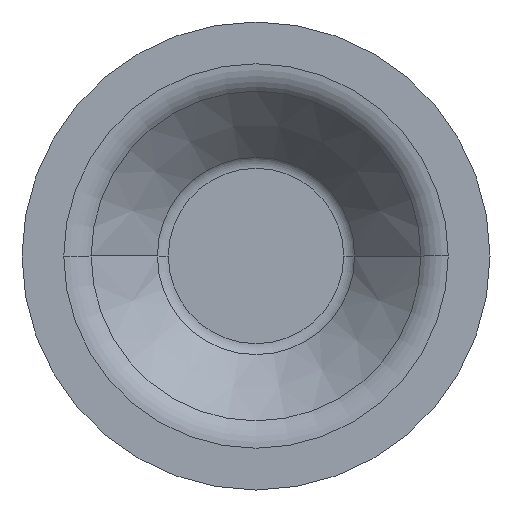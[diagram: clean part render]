
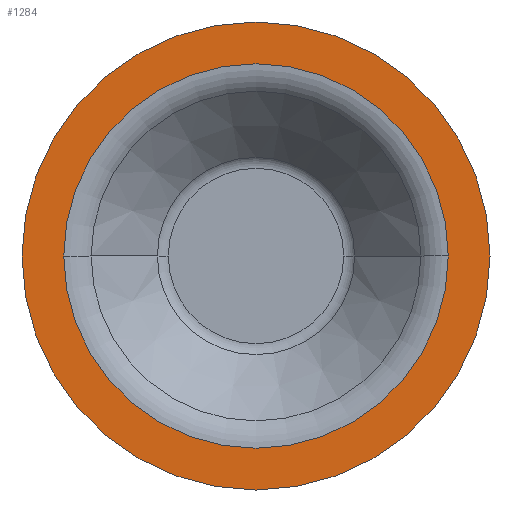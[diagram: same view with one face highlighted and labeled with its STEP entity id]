
A CAD part, front view. The second image highlights one B-rep face of the part: STEP entity #1284.
In plain terms, the highlighted planar face has unit normal (0, -1, 0).
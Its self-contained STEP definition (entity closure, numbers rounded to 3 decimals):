
#117 = CIRCLE ( 'NONE', #1071, 25.88 ) ;
#119 = CARTESIAN_POINT ( 'NONE',  ( -31.5, -15., 0. ) ) ;
#156 = EDGE_CURVE ( 'NONE', #474, #1333, #117, .T. ) ;
#165 = ORIENTED_EDGE ( 'NONE', *, *, #156, .F. ) ;
#171 = DIRECTION ( 'NONE',  ( 0., -1., 0. ) ) ;
#172 = VERTEX_POINT ( 'NONE', #373 ) ;
#193 = DIRECTION ( 'NONE',  ( 1., 0., 0. ) ) ;
#262 = AXIS2_PLACEMENT_3D ( 'NONE', #879, #887, #1621 ) ;
#373 = CARTESIAN_POINT ( 'NONE',  ( 31.5, -15., 0. ) ) ;
#469 = AXIS2_PLACEMENT_3D ( 'NONE', #949, #1313, #193 ) ;
#474 = VERTEX_POINT ( 'NONE', #888 ) ;
#560 = CIRCLE ( 'NONE', #1469, 31.5 ) ;
#678 = CIRCLE ( 'NONE', #1391, 25.88 ) ;
#689 = CARTESIAN_POINT ( 'NONE',  ( 0., -15., 0. ) ) ;
#734 = EDGE_CURVE ( 'NONE', #172, #921, #993, .T. ) ;
#750 = DIRECTION ( 'NONE',  ( 0., -1., 0. ) ) ;
#762 = EDGE_LOOP ( 'NONE', ( #1515, #165 ) ) ;
#803 = FACE_BOUND ( 'NONE', #762, .T. ) ;
#819 = DIRECTION ( 'NONE',  ( -1., 0., 0. ) ) ;
#866 = EDGE_LOOP ( 'NONE', ( #1497, #1217 ) ) ;
#879 = CARTESIAN_POINT ( 'NONE',  ( 31.5, -15., 0. ) ) ;
#887 = DIRECTION ( 'NONE',  ( 0., -1., 0. ) ) ;
#888 = CARTESIAN_POINT ( 'NONE',  ( 25.88, -15., 0. ) ) ;
#921 = VERTEX_POINT ( 'NONE', #119 ) ;
#949 = CARTESIAN_POINT ( 'NONE',  ( 0., -15., 0. ) ) ;
#965 = EDGE_CURVE ( 'NONE', #921, #172, #560, .T. ) ;
#990 = DIRECTION ( 'NONE',  ( 0., -1., 0. ) ) ;
#991 = CARTESIAN_POINT ( 'NONE',  ( 0., -15., 0. ) ) ;
#993 = CIRCLE ( 'NONE', #469, 31.5 ) ;
#1001 = DIRECTION ( 'NONE',  ( 1., 0., 0. ) ) ;
#1071 = AXIS2_PLACEMENT_3D ( 'NONE', #1091, #990, #1248 ) ;
#1091 = CARTESIAN_POINT ( 'NONE',  ( 0., -15., 0. ) ) ;
#1183 = EDGE_CURVE ( 'NONE', #1333, #474, #678, .T. ) ;
#1217 = ORIENTED_EDGE ( 'NONE', *, *, #965, .T. ) ;
#1248 = DIRECTION ( 'NONE',  ( -1., 0., 0. ) ) ;
#1284 = ADVANCED_FACE ( 'NONE', ( #803, #1300 ), #1364, .T. ) ;
#1300 = FACE_OUTER_BOUND ( 'NONE', #866, .T. ) ;
#1313 = DIRECTION ( 'NONE',  ( 0., -1., 0. ) ) ;
#1333 = VERTEX_POINT ( 'NONE', #1486 ) ;
#1364 = PLANE ( 'NONE',  #262 ) ;
#1391 = AXIS2_PLACEMENT_3D ( 'NONE', #689, #171, #819 ) ;
#1469 = AXIS2_PLACEMENT_3D ( 'NONE', #991, #750, #1001 ) ;
#1486 = CARTESIAN_POINT ( 'NONE',  ( -25.88, -15., 0. ) ) ;
#1497 = ORIENTED_EDGE ( 'NONE', *, *, #734, .T. ) ;
#1515 = ORIENTED_EDGE ( 'NONE', *, *, #1183, .F. ) ;
#1621 = DIRECTION ( 'NONE',  ( 1., 0., 0. ) ) ;
